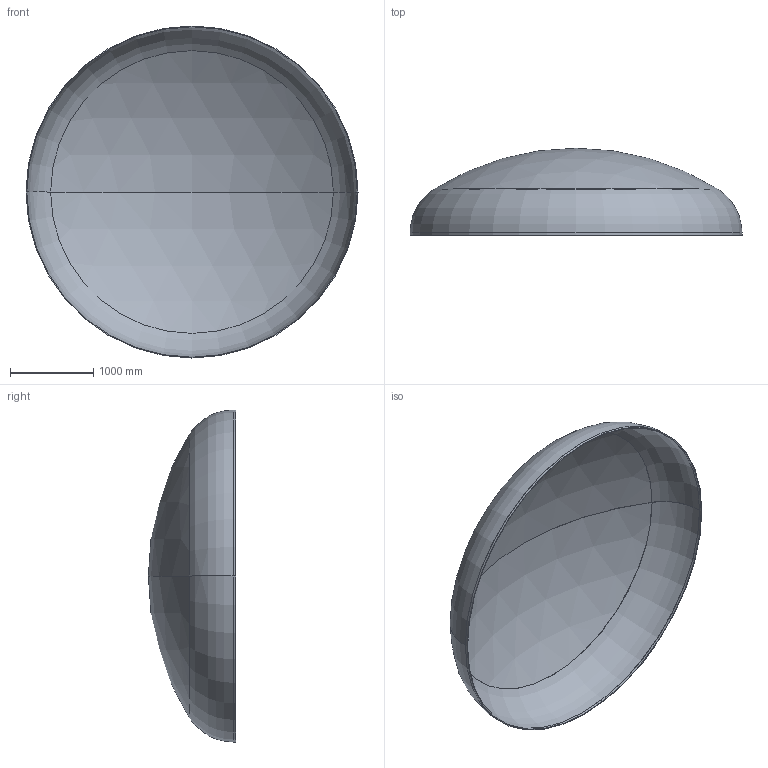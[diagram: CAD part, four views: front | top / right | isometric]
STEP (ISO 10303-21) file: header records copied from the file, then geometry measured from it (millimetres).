
FILE_DESCRIPTION (( 'STEP AP203' ), '1' );
FILE_NAME ('DIN 28013 Korbbogenform_-_Boden DIN 28013 - 4000 x 30 - I - s=9.step', '2016-07-01T21:59:44', ( '' ), ( '' ), 'SwSTEP 2.0', 'SolidWorks 2013', '' );
FILE_SCHEMA (( 'CONFIG_CONTROL_DESIGN' ));
Length unit declared in the file: millimetre
Products named in the file (1): DIN 28013 Korbbogenform_-_Boden DIN 28013 - 4000 x 30 - I - s=9
Bounding box: 4000 x 1050.66 x 4000 mm (x, y, z)
Volume: 159522419 mm3; surface area: 35562424.4 mm2
Topology: 1 solids, 1 shells, 13 faces, 24 edges, 14 vertices
Faces by surface type: torus 4, cylinder 4, sphere 4, plane 1
Entity records: 407 total; most frequent: DIRECTION 72, CARTESIAN_POINT 52, ORIENTED_EDGE 48, AXIS2_PLACEMENT_3D 34, EDGE_CURVE 24, CIRCLE 20, EDGE_LOOP 14, VERTEX_POINT 14
